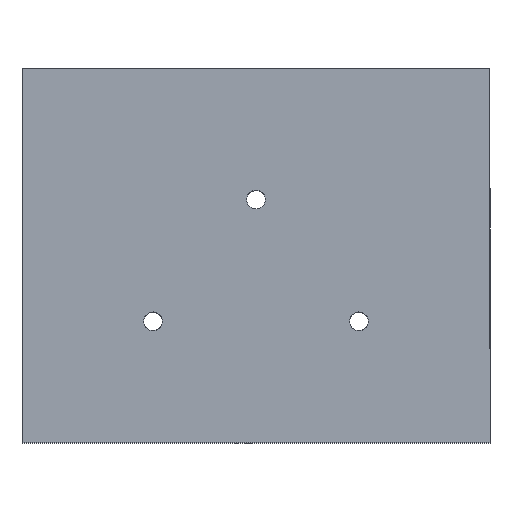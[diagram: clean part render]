
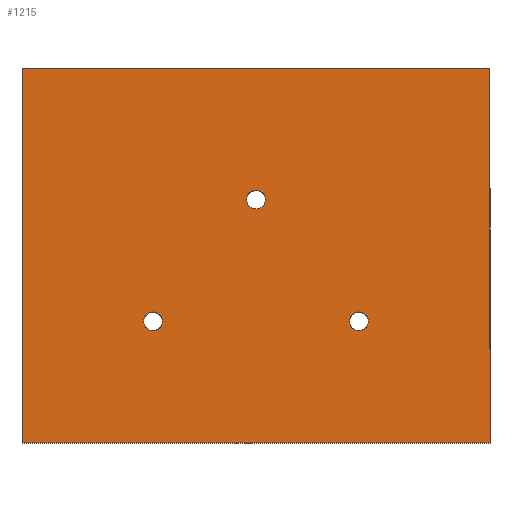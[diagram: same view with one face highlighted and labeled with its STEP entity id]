
A CAD part, top view. The second image highlights one B-rep face of the part: STEP entity #1215.
In plain terms, the highlighted planar face has unit normal (0, 0, 1).
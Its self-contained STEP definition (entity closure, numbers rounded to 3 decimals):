
#8 = DIRECTION ( 'NONE',  ( 0., 0., 1. ) ) ;
#26 = CIRCLE ( 'NONE', #355, 1. ) ;
#28 = CARTESIAN_POINT ( 'NONE',  ( 25., 20., 12.5 ) ) ;
#53 = AXIS2_PLACEMENT_3D ( 'NONE', #715, #8, #350 ) ;
#73 = ORIENTED_EDGE ( 'NONE', *, *, #186, .T. ) ;
#104 = AXIS2_PLACEMENT_3D ( 'NONE', #1269, #152, #644 ) ;
#106 = LINE ( 'NONE', #365, #821 ) ;
#134 = FACE_BOUND ( 'NONE', #1087, .T. ) ;
#152 = DIRECTION ( 'NONE',  ( 0., 0., 1. ) ) ;
#155 = AXIS2_PLACEMENT_3D ( 'NONE', #1375, #265, #1508 ) ;
#173 = ORIENTED_EDGE ( 'NONE', *, *, #465, .T. ) ;
#175 = DIRECTION ( 'NONE',  ( 0., 0., 1. ) ) ;
#186 = EDGE_CURVE ( 'NONE', #1162, #974, #1188, .T. ) ;
#206 = CIRCLE ( 'NONE', #1006, 1. ) ;
#234 = CIRCLE ( 'NONE', #104, 1. ) ;
#237 = CARTESIAN_POINT ( 'NONE',  ( 0., 6., 12.5 ) ) ;
#248 = PLANE ( 'NONE',  #53 ) ;
#263 = VERTEX_POINT ( 'NONE', #1205 ) ;
#265 = DIRECTION ( 'NONE',  ( 0., 0., 1. ) ) ;
#283 = EDGE_LOOP ( 'NONE', ( #836, #749 ) ) ;
#309 = DIRECTION ( 'NONE',  ( 1., 0., 0. ) ) ;
#350 = DIRECTION ( 'NONE',  ( 1., 0., 0. ) ) ;
#355 = AXIS2_PLACEMENT_3D ( 'NONE', #237, #1116, #1483 ) ;
#365 = CARTESIAN_POINT ( 'NONE',  ( -25., 20., 12.5 ) ) ;
#400 = VERTEX_POINT ( 'NONE', #780 ) ;
#407 = AXIS2_PLACEMENT_3D ( 'NONE', #651, #175, #1284 ) ;
#409 = ORIENTED_EDGE ( 'NONE', *, *, #1379, .F. ) ;
#424 = VERTEX_POINT ( 'NONE', #1509 ) ;
#427 = ORIENTED_EDGE ( 'NONE', *, *, #1153, .T. ) ;
#465 = EDGE_CURVE ( 'NONE', #400, #1162, #796, .T. ) ;
#489 = FACE_BOUND ( 'NONE', #1460, .T. ) ;
#497 = FACE_BOUND ( 'NONE', #283, .T. ) ;
#516 = EDGE_CURVE ( 'NONE', #1510, #400, #1385, .T. ) ;
#519 = DIRECTION ( 'NONE',  ( 0., 0., 1. ) ) ;
#565 = EDGE_CURVE ( 'NONE', #424, #263, #765, .T. ) ;
#629 = FACE_OUTER_BOUND ( 'NONE', #1031, .T. ) ;
#644 = DIRECTION ( 'NONE',  ( 1., 0., 0. ) ) ;
#651 = CARTESIAN_POINT ( 'NONE',  ( 11., -7., 12.5 ) ) ;
#680 = CARTESIAN_POINT ( 'NONE',  ( 1., 6., 12.5 ) ) ;
#715 = CARTESIAN_POINT ( 'NONE',  ( 0., 0., 12.5 ) ) ;
#724 = CARTESIAN_POINT ( 'NONE',  ( 25., -20., 12.5 ) ) ;
#749 = ORIENTED_EDGE ( 'NONE', *, *, #1479, .F. ) ;
#765 = CIRCLE ( 'NONE', #975, 1. ) ;
#769 = VERTEX_POINT ( 'NONE', #680 ) ;
#780 = CARTESIAN_POINT ( 'NONE',  ( -25., -20., 12.5 ) ) ;
#791 = CARTESIAN_POINT ( 'NONE',  ( -25., 20., 12.5 ) ) ;
#796 = LINE ( 'NONE', #1393, #867 ) ;
#801 = DIRECTION ( 'NONE',  ( 0., -1., 0. ) ) ;
#808 = CARTESIAN_POINT ( 'NONE',  ( 25., 20., 12.5 ) ) ;
#821 = VECTOR ( 'NONE', #1475, 1000. ) ;
#836 = ORIENTED_EDGE ( 'NONE', *, *, #565, .F. ) ;
#867 = VECTOR ( 'NONE', #1300, 1000. ) ;
#902 = ORIENTED_EDGE ( 'NONE', *, *, #516, .T. ) ;
#951 = EDGE_CURVE ( 'NONE', #769, #1581, #206, .T. ) ;
#974 = VERTEX_POINT ( 'NONE', #28 ) ;
#975 = AXIS2_PLACEMENT_3D ( 'NONE', #1520, #519, #309 ) ;
#985 = VECTOR ( 'NONE', #1308, 1000. ) ;
#1006 = AXIS2_PLACEMENT_3D ( 'NONE', #1044, #1144, #1404 ) ;
#1031 = EDGE_LOOP ( 'NONE', ( #73, #427, #902, #173 ) ) ;
#1044 = CARTESIAN_POINT ( 'NONE',  ( 0., 6., 12.5 ) ) ;
#1055 = CARTESIAN_POINT ( 'NONE',  ( -1., 6., 12.5 ) ) ;
#1057 = CARTESIAN_POINT ( 'NONE',  ( 10., -7., 12.5 ) ) ;
#1076 = ORIENTED_EDGE ( 'NONE', *, *, #1461, .F. ) ;
#1087 = EDGE_LOOP ( 'NONE', ( #1076, #409 ) ) ;
#1116 = DIRECTION ( 'NONE',  ( 0., 0., 1. ) ) ;
#1130 = VERTEX_POINT ( 'NONE', #1057 ) ;
#1144 = DIRECTION ( 'NONE',  ( 0., 0., 1. ) ) ;
#1153 = EDGE_CURVE ( 'NONE', #974, #1510, #106, .T. ) ;
#1162 = VERTEX_POINT ( 'NONE', #724 ) ;
#1178 = ORIENTED_EDGE ( 'NONE', *, *, #951, .F. ) ;
#1188 = LINE ( 'NONE', #808, #985 ) ;
#1191 = VERTEX_POINT ( 'NONE', #1253 ) ;
#1202 = CARTESIAN_POINT ( 'NONE',  ( -25., 20., 12.5 ) ) ;
#1205 = CARTESIAN_POINT ( 'NONE',  ( -12., -7., 12.5 ) ) ;
#1215 = ADVANCED_FACE ( 'NONE', ( #489, #134, #497, #629 ), #248, .T. ) ;
#1216 = VECTOR ( 'NONE', #801, 1000. ) ;
#1253 = CARTESIAN_POINT ( 'NONE',  ( 12., -7., 12.5 ) ) ;
#1269 = CARTESIAN_POINT ( 'NONE',  ( -11., -7., 12.5 ) ) ;
#1284 = DIRECTION ( 'NONE',  ( 1., 0., 0. ) ) ;
#1297 = CIRCLE ( 'NONE', #155, 1. ) ;
#1300 = DIRECTION ( 'NONE',  ( 1., 0., 0. ) ) ;
#1304 = EDGE_CURVE ( 'NONE', #1581, #769, #26, .T. ) ;
#1308 = DIRECTION ( 'NONE',  ( 0., 1., 0. ) ) ;
#1375 = CARTESIAN_POINT ( 'NONE',  ( 11., -7., 12.5 ) ) ;
#1379 = EDGE_CURVE ( 'NONE', #1130, #1191, #1606, .T. ) ;
#1385 = LINE ( 'NONE', #791, #1216 ) ;
#1393 = CARTESIAN_POINT ( 'NONE',  ( -25., -20., 12.5 ) ) ;
#1404 = DIRECTION ( 'NONE',  ( 1., 0., 0. ) ) ;
#1460 = EDGE_LOOP ( 'NONE', ( #1178, #1506 ) ) ;
#1461 = EDGE_CURVE ( 'NONE', #1191, #1130, #1297, .T. ) ;
#1475 = DIRECTION ( 'NONE',  ( -1., 0., 0. ) ) ;
#1479 = EDGE_CURVE ( 'NONE', #263, #424, #234, .T. ) ;
#1483 = DIRECTION ( 'NONE',  ( 1., 0., 0. ) ) ;
#1506 = ORIENTED_EDGE ( 'NONE', *, *, #1304, .F. ) ;
#1508 = DIRECTION ( 'NONE',  ( 1., 0., 0. ) ) ;
#1509 = CARTESIAN_POINT ( 'NONE',  ( -10., -7., 12.5 ) ) ;
#1510 = VERTEX_POINT ( 'NONE', #1202 ) ;
#1520 = CARTESIAN_POINT ( 'NONE',  ( -11., -7., 12.5 ) ) ;
#1581 = VERTEX_POINT ( 'NONE', #1055 ) ;
#1606 = CIRCLE ( 'NONE', #407, 1. ) ;
